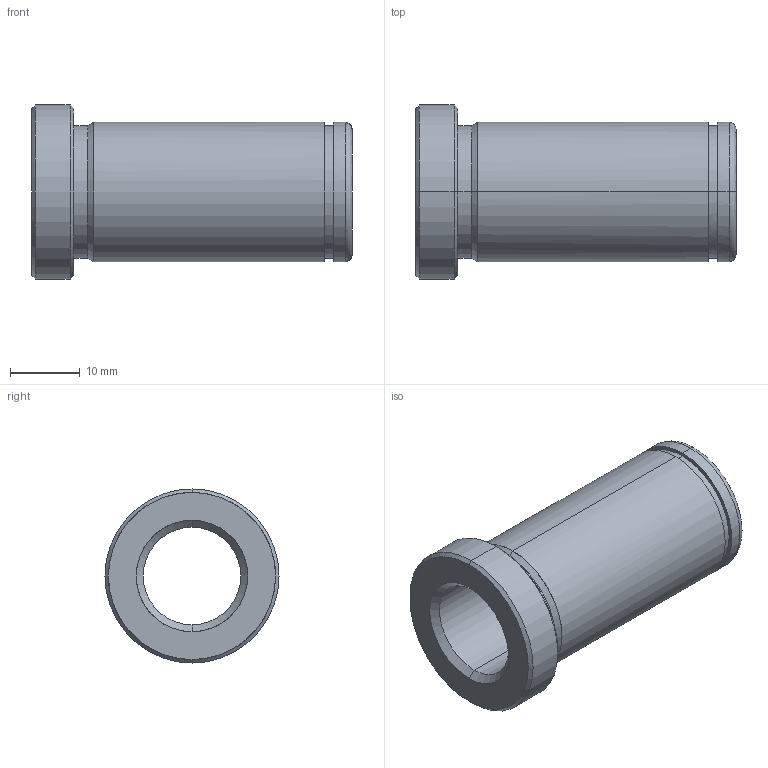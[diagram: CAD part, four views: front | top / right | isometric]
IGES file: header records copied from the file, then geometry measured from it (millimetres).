
Start section: START RECORD GO HERE.
Global section: file name: 553-14X46.igs; native system: DASSAULT SYSTEMES CATIA V5 R20 - www.3ds.com; preprocessor: CATIA Version 5 Release 20 ; author: Utente; organization: NB04-ASUS; date: 20210521.202459; units: millimetre
Bounding box: 46 x 25 x 25 mm (x, y, z)
Surface area: 5644.1 mm2 (no closed solid volume)
Topology: 0 solids, 0 shells, 29 faces, 184 edges, 184 vertices
Faces by surface type: revolution 24, plane 5
